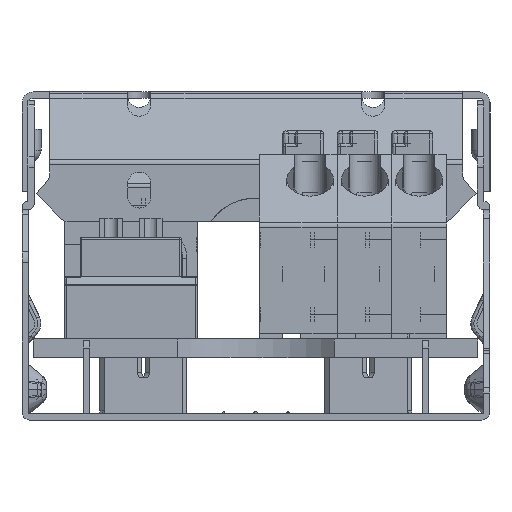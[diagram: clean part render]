
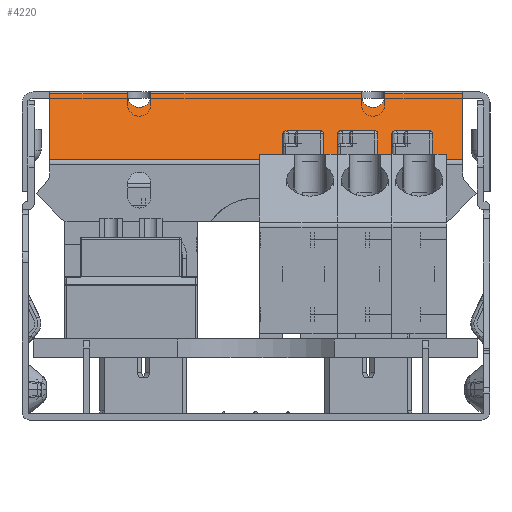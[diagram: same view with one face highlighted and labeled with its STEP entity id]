
A CAD part, left-side view. The second image highlights one B-rep face of the part: STEP entity #4220.
In plain terms, the highlighted planar face has unit normal (-0.707, 0, 0.707).
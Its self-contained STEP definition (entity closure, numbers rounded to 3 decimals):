
#447=DIRECTION('',(0.707,0.,0.707));
#448=VECTOR('',#447,6.);
#449=CARTESIAN_POINT('',(-246.636,-2071.521,
-4.36));
#450=LINE('',#449,#448);
#472=DIRECTION('',(0.,-1.,0.));
#473=VECTOR('',#472,5.);
#474=CARTESIAN_POINT('',(-242.394,-2071.521,
-0.117));
#475=LINE('',#474,#473);
#480=CARTESIAN_POINT('',(-243.261,-2077.271,
-0.984));
#481=CARTESIAN_POINT('',(-243.261,-2077.12,
-0.984));
#482=CARTESIAN_POINT('',(-243.191,-2076.917,
-0.914));
#483=CARTESIAN_POINT('',(-242.966,-2076.631,
-0.689));
#484=CARTESIAN_POINT('',(-242.724,-2076.521,
-0.448));
#485=CARTESIAN_POINT('',(-242.511,-2076.521,
-0.234));
#487=CARTESIAN_POINT('',(-242.511,-2078.021,
-0.234));
#488=CARTESIAN_POINT('',(-242.724,-2078.021,
-0.448));
#489=CARTESIAN_POINT('',(-242.966,-2077.91,
-0.689));
#490=CARTESIAN_POINT('',(-243.191,-2077.624,
-0.914));
#491=CARTESIAN_POINT('',(-243.261,-2077.421,
-0.984));
#492=CARTESIAN_POINT('',(-243.261,-2077.271,
-0.984));
#499=DIRECTION('',(0.707,0.,0.707));
#500=VECTOR('',#499,0.166);
#501=CARTESIAN_POINT('',(-242.511,-2078.021,
-0.234));
#502=LINE('',#501,#500);
#511=DIRECTION('',(0.,-1.,0.));
#512=VECTOR('',#511,13.5);
#513=CARTESIAN_POINT('',(-242.394,-2078.021,
-0.117));
#514=LINE('',#513,#512);
#515=DIRECTION('',(-0.707,0.,-0.707));
#516=VECTOR('',#515,0.166);
#517=CARTESIAN_POINT('',(-242.394,-2091.521,
-0.117));
#518=LINE('',#517,#516);
#536=CARTESIAN_POINT('',(-242.511,-2091.521,
-0.234));
#537=CARTESIAN_POINT('',(-242.724,-2091.521,
-0.448));
#538=CARTESIAN_POINT('',(-242.966,-2091.631,
-0.689));
#539=CARTESIAN_POINT('',(-243.191,-2091.917,
-0.914));
#540=CARTESIAN_POINT('',(-243.261,-2092.12,
-0.984));
#541=CARTESIAN_POINT('',(-243.261,-2092.271,
-0.984));
#565=CARTESIAN_POINT('',(-243.261,-2092.271,
-0.984));
#566=CARTESIAN_POINT('',(-243.261,-2092.421,
-0.984));
#567=CARTESIAN_POINT('',(-243.191,-2092.624,
-0.914));
#568=CARTESIAN_POINT('',(-242.966,-2092.91,
-0.689));
#569=CARTESIAN_POINT('',(-242.724,-2093.021,
-0.448));
#570=CARTESIAN_POINT('',(-242.511,-2093.021,
-0.234));
#808=DIRECTION('',(0.,1.,0.));
#809=VECTOR('',#808,26.5);
#810=CARTESIAN_POINT('',(-246.636,-2098.021,
-4.36));
#811=LINE('',#810,#809);
#830=DIRECTION('',(-0.707,0.,-0.707));
#831=VECTOR('',#830,6.);
#832=CARTESIAN_POINT('',(-242.394,-2098.021,
-0.117));
#833=LINE('',#832,#831);
#838=DIRECTION('',(0.,-1.,0.));
#839=VECTOR('',#838,5.);
#840=CARTESIAN_POINT('',(-242.394,-2093.021,
-0.117));
#841=LINE('',#840,#839);
#847=DIRECTION('',(0.707,0.,0.707));
#848=VECTOR('',#847,0.166);
#849=CARTESIAN_POINT('',(-242.511,-2093.021,
-0.234));
#850=LINE('',#849,#848);
#993=DIRECTION('',(-0.707,0.,-0.707));
#994=VECTOR('',#993,0.166);
#995=CARTESIAN_POINT('',(-242.394,-2076.521,
-0.117));
#996=LINE('',#995,#994);
#3171=CARTESIAN_POINT('',(-242.394,-2098.021,
-0.117));
#3172=VERTEX_POINT('',#3171);
#3173=CARTESIAN_POINT('',(-246.636,-2098.021,
-4.36));
#3174=VERTEX_POINT('',#3173);
#3287=CARTESIAN_POINT('',(-246.636,-2071.521,
-4.36));
#3288=VERTEX_POINT('',#3287);
#3289=CARTESIAN_POINT('',(-242.511,-2078.021,
-0.234));
#3290=CARTESIAN_POINT('',(-242.394,-2078.021,
-0.117));
#3291=VERTEX_POINT('',#3289);
#3292=VERTEX_POINT('',#3290);
#3293=VERTEX_POINT('',#480);
#3294=VERTEX_POINT('',#485);
#3295=CARTESIAN_POINT('',(-242.394,-2076.521,
-0.117));
#3296=VERTEX_POINT('',#3295);
#3297=CARTESIAN_POINT('',(-242.394,-2071.521,
-0.117));
#3298=VERTEX_POINT('',#3297);
#3299=CARTESIAN_POINT('',(-242.394,-2093.021,
-0.117));
#3300=VERTEX_POINT('',#3299);
#3301=CARTESIAN_POINT('',(-242.511,-2093.021,
-0.234));
#3302=VERTEX_POINT('',#3301);
#3303=VERTEX_POINT('',#565);
#3304=VERTEX_POINT('',#536);
#3305=CARTESIAN_POINT('',(-242.394,-2091.521,
-0.117));
#3306=VERTEX_POINT('',#3305);
#4187=CARTESIAN_POINT('',(-246.636,-1971.261,
-4.36));
#4188=DIRECTION('',(0.707,0.,-0.707));
#4189=DIRECTION('',(-0.707,0.,-0.707));
#4190=AXIS2_PLACEMENT_3D('',#4187,#4188,#4189);
#4191=PLANE('',#4190);
#4193=ORIENTED_EDGE('',*,*,#4192,.T.);
#4195=ORIENTED_EDGE('',*,*,#4194,.T.);
#4197=ORIENTED_EDGE('',*,*,#4196,.T.);
#4199=ORIENTED_EDGE('',*,*,#4198,.T.);
#4201=ORIENTED_EDGE('',*,*,#4200,.T.);
#4203=ORIENTED_EDGE('',*,*,#4202,.T.);
#4205=ORIENTED_EDGE('',*,*,#4204,.T.);
#4207=ORIENTED_EDGE('',*,*,#4206,.T.);
#4209=ORIENTED_EDGE('',*,*,#4208,.T.);
#4210=ORIENTED_EDGE('',*,*,#4157,.T.);
#4211=ORIENTED_EDGE('',*,*,#4178,.T.);
#4213=ORIENTED_EDGE('',*,*,#4212,.T.);
#4215=ORIENTED_EDGE('',*,*,#4214,.F.);
#4217=ORIENTED_EDGE('',*,*,#4216,.F.);
#4218=EDGE_LOOP('',(#4193,#4195,#4197,#4199,#4201,#4203,#4205,#4207,#4209,#4210,
#4211,#4213,#4215,#4217));
#4219=FACE_OUTER_BOUND('',#4218,.F.);
#486=B_SPLINE_CURVE_WITH_KNOTS('',3,(#480,#481,#482,#483,#484,#485),
.UNSPECIFIED.,.F.,.F.,(4,1,1,4),(0.,0.25,0.5,1.),.UNSPECIFIED.);
#493=B_SPLINE_CURVE_WITH_KNOTS('',3,(#487,#488,#489,#490,#491,#492),
.UNSPECIFIED.,.F.,.F.,(4,1,1,4),(0.,0.5,0.75,1.),.UNSPECIFIED.);
#542=B_SPLINE_CURVE_WITH_KNOTS('',3,(#536,#537,#538,#539,#540,#541),
.UNSPECIFIED.,.F.,.F.,(4,1,1,4),(0.,0.5,0.75,1.),.UNSPECIFIED.);
#571=B_SPLINE_CURVE_WITH_KNOTS('',3,(#565,#566,#567,#568,#569,#570),
.UNSPECIFIED.,.F.,.F.,(4,1,1,4),(0.,0.25,0.5,1.),.UNSPECIFIED.);
#4157=EDGE_CURVE('',#3288,#3298,#450,.T.);
#4178=EDGE_CURVE('',#3298,#3296,#475,.T.);
#4192=EDGE_CURVE('',#3291,#3292,#502,.T.);
#4194=EDGE_CURVE('',#3292,#3306,#514,.T.);
#4196=EDGE_CURVE('',#3306,#3304,#518,.T.);
#4198=EDGE_CURVE('',#3304,#3303,#542,.T.);
#4200=EDGE_CURVE('',#3303,#3302,#571,.T.);
#4202=EDGE_CURVE('',#3302,#3300,#850,.T.);
#4204=EDGE_CURVE('',#3300,#3172,#841,.T.);
#4206=EDGE_CURVE('',#3172,#3174,#833,.T.);
#4208=EDGE_CURVE('',#3174,#3288,#811,.T.);
#4212=EDGE_CURVE('',#3296,#3294,#996,.T.);
#4214=EDGE_CURVE('',#3293,#3294,#486,.T.);
#4216=EDGE_CURVE('',#3291,#3293,#493,.T.);
#4220=ADVANCED_FACE('',(#4219),#4191,.F.);
